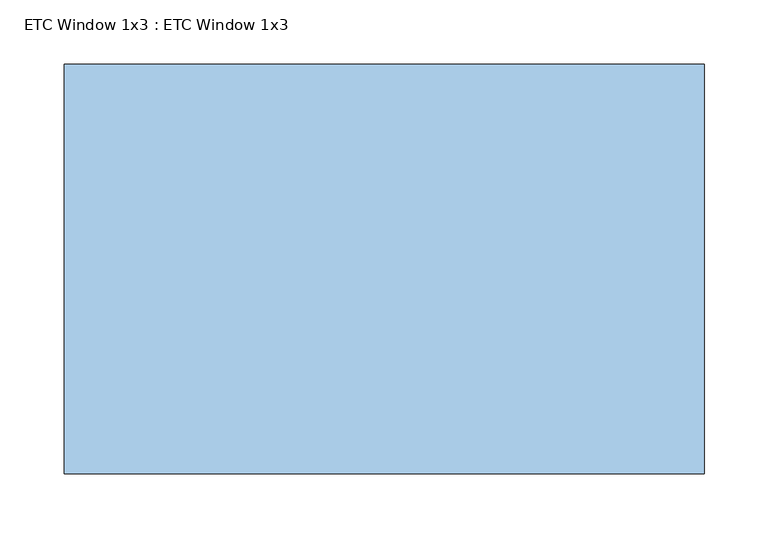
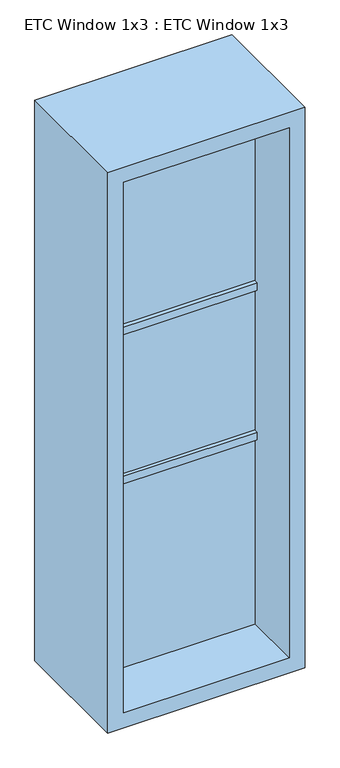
"""IFC4 building model written with IfcOpenShell, lengths in millimetres: window geometry, ETC Window 1x3 : ETC Window 1x3."""

from ifc_helpers import new_model, si_unit, frame, origin, place, context, project, spatial, polyline, outline, extrude, source, transform, mapped, element, save


def etc_window_1x3_etc_window_1x3_7aaa86aa(model_context):
    return source(origin(), model_context, "Body", "SweptSolid", [
        extrude(outline(polyline([(210.0, -10.0), (-210.0, -10.0), (-210.0, 10.0), (210.0, 10.0), (210.0, -10.0)])), frame((0.0, 0.0, 840.0), z_axis=(0.0, 0.0, 1.0), x_axis=(1.0, 0.0, 0.0)), (0.0, 0.0, 1.0), 500.0),
        extrude(outline(polyline([(210.0, -10.0), (-210.0, -10.0), (-210.0, 10.0), (210.0, 10.0), (210.0, -10.0)])), frame((0.0, 0.0, 1760.0), z_axis=(0.0, 0.0, 1.0), x_axis=(1.0, 0.0, 0.0)), (0.0, 0.0, 1.0), 500.0),
        extrude(outline(polyline([(210.0, -10.0), (-210.0, -10.0), (-210.0, 10.0), (210.0, 10.0), (210.0, -10.0)])), frame((0.0, 0.0, 1360.0), z_axis=(0.0, 0.0, 1.0), x_axis=(1.0, 0.0, 0.0)), (0.0, 0.0, 1.0), 380.0),
        extrude(outline(polyline([(2300.0, 250.0), (2300.0, -250.0), (800.0, -250.0), (800.0, 250.0), (2300.0, 250.0)]), holes=[polyline([(2260.0, -210.0), (2260.0, 210.0), (840.0, 210.0), (840.0, -210.0), (2260.0, -210.0)])]), frame((0.0, -160.0, 0.0), z_axis=(0.0, 1.0, 0.0), x_axis=(0.0, 0.0, 1.0)), (0.0, 0.0, 1.0), 320.0),
        extrude(outline(polyline([(210.0, -20.0), (-210.0, -20.0), (-210.0, 20.0), (210.0, 20.0), (210.0, -20.0)])), frame((0.0, 0.0, 1740.0), z_axis=(0.0, 0.0, 1.0), x_axis=(1.0, 0.0, 0.0)), (0.0, 0.0, 1.0), 20.0),
        extrude(outline(polyline([(210.0, -20.0), (-210.0, -20.0), (-210.0, 20.0), (210.0, 20.0), (210.0, -20.0)])), frame((0.0, 0.0, 1340.0), z_axis=(0.0, 0.0, 1.0), x_axis=(1.0, 0.0, 0.0)), (0.0, 0.0, 1.0), 20.0),
    ])


if __name__ == "__main__":
    model = new_model("IFC4")
    model_context = context("Model", 3, world=origin())
    ifc_project = project(units=[si_unit("LENGTHUNIT", "METRE", prefix="MILLI")], contexts=[model_context])
    site = spatial("IfcSite", under=ifc_project)
    building = spatial("IfcBuilding", under=site)
    placement = place(None, origin())
    etc_window_1x3_etc_window_1x3_shape = etc_window_1x3_etc_window_1x3_7aaa86aa(model_context)
    element("IfcWindow", 1, ObjectType="ETC Window 1x3 : ETC Window 1x3", at=placement, inside=building, context=model_context, shape_type="MappedRepresentation", body=[
        mapped(etc_window_1x3_etc_window_1x3_shape, transform((0.0, 0.0, 0.0), x_axis=(1.0, 0.0, 0.0), y_axis=(0.0, 1.0, 0.0), z_axis=(0.0, 0.0, 1.0))),
    ])
    save(model, "model.ifc")
